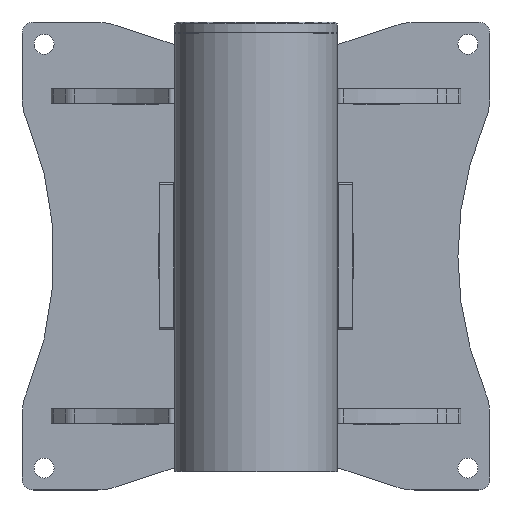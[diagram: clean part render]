
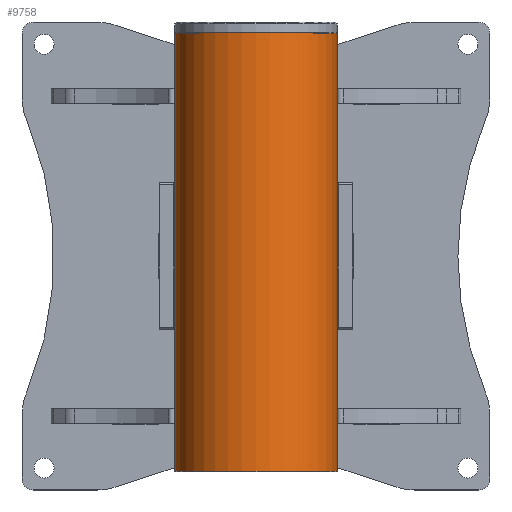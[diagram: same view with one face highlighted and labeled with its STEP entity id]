
A CAD part, top view. The second image highlights one B-rep face of the part: STEP entity #9758.
In plain terms, the highlighted cylindrical face has radius 70.65 mm (diameter 141.3 mm), a partial arc.
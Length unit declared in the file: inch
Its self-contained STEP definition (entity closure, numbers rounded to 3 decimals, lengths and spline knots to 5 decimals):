
#37 = DIRECTION ( 'NONE',  ( -1., 0., 0. ) ) ;
#186 = CARTESIAN_POINT ( 'NONE',  ( 0., 0., 15. ) ) ;
#321 = VERTEX_POINT ( 'NONE', #8080 ) ;
#862 = ORIENTED_EDGE ( 'NONE', *, *, #1360, .T. ) ;
#987 = DIRECTION ( 'NONE',  ( 0., 0., -1. ) ) ;
#1032 = VECTOR ( 'NONE', #6588, 39.37008 ) ;
#1360 = EDGE_CURVE ( 'NONE', #7394, #321, #5701, .T. ) ;
#1839 = EDGE_CURVE ( 'NONE', #7320, #5747, #3308, .T. ) ;
#2195 = CARTESIAN_POINT ( 'NONE',  ( -2.7815, 0., 0. ) ) ;
#2677 = AXIS2_PLACEMENT_3D ( 'NONE', #4401, #9279, #3708 ) ;
#3257 = CARTESIAN_POINT ( 'NONE',  ( 0., 0., 0. ) ) ;
#3308 = LINE ( 'NONE', #3461, #1032 ) ;
#3324 = ORIENTED_EDGE ( 'NONE', *, *, #9099, .F. ) ;
#3461 = CARTESIAN_POINT ( 'NONE',  ( -2.7815, 0., 15. ) ) ;
#3708 = DIRECTION ( 'NONE',  ( 1., 0., 0. ) ) ;
#4037 = CIRCLE ( 'NONE', #2677, 2.7815 ) ;
#4061 = ORIENTED_EDGE ( 'NONE', *, *, #1839, .F. ) ;
#4165 = DIRECTION ( 'NONE',  ( 0., 0., -1. ) ) ;
#4294 = AXIS2_PLACEMENT_3D ( 'NONE', #186, #4165, #37 ) ;
#4342 = CIRCLE ( 'NONE', #7225, 2.7815 ) ;
#4401 = CARTESIAN_POINT ( 'NONE',  ( 0., 0., 15. ) ) ;
#4813 = FACE_OUTER_BOUND ( 'NONE', #5382, .T. ) ;
#4851 = DIRECTION ( 'NONE',  ( 1., 0., 0. ) ) ;
#5101 = CARTESIAN_POINT ( 'NONE',  ( 2.7815, 0., 15. ) ) ;
#5382 = EDGE_LOOP ( 'NONE', ( #3324, #862, #6600, #4061 ) ) ;
#5701 = LINE ( 'NONE', #8291, #7445 ) ;
#5747 = VERTEX_POINT ( 'NONE', #2195 ) ;
#6489 = DIRECTION ( 'NONE',  ( 0., 0., 1. ) ) ;
#6588 = DIRECTION ( 'NONE',  ( 0., 0., -1. ) ) ;
#6600 = ORIENTED_EDGE ( 'NONE', *, *, #7325, .T. ) ;
#7225 = AXIS2_PLACEMENT_3D ( 'NONE', #3257, #6489, #4851 ) ;
#7285 = CARTESIAN_POINT ( 'NONE',  ( -2.7815, 0., 15. ) ) ;
#7320 = VERTEX_POINT ( 'NONE', #7285 ) ;
#7325 = EDGE_CURVE ( 'NONE', #321, #5747, #4342, .T. ) ;
#7394 = VERTEX_POINT ( 'NONE', #5101 ) ;
#7445 = VECTOR ( 'NONE', #987, 39.37008 ) ;
#8080 = CARTESIAN_POINT ( 'NONE',  ( 2.7815, 0., 0. ) ) ;
#8291 = CARTESIAN_POINT ( 'NONE',  ( 2.7815, 0., 15. ) ) ;
#8937 = CYLINDRICAL_SURFACE ( 'NONE', #4294, 2.7815 ) ;
#9099 = EDGE_CURVE ( 'NONE', #7394, #7320, #4037, .T. ) ;
#9279 = DIRECTION ( 'NONE',  ( 0., 0., 1. ) ) ;
#9758 = ADVANCED_FACE ( 'NONE', ( #4813 ), #8937, .T. ) ;
